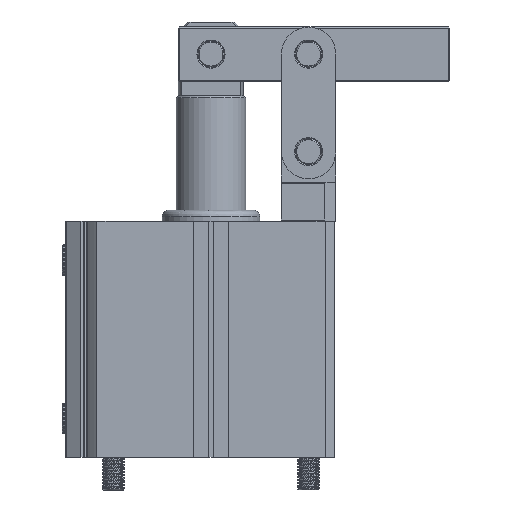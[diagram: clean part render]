
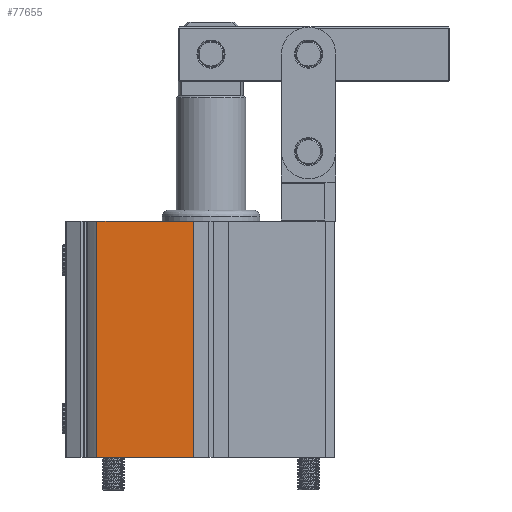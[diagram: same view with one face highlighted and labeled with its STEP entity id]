
A CAD part, front view. The second image highlights one B-rep face of the part: STEP entity #77655.
In plain terms, the highlighted planar face has unit normal (0, -1, 0).
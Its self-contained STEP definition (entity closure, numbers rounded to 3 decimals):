
#70107 = PLANE('',#70108);
#70108 = AXIS2_PLACEMENT_3D('',#70109,#70110,#70111);
#70109 = CARTESIAN_POINT('',(-59.57,15.628,59.5));
#70110 = DIRECTION('',(0.,0.,1.));
#70111 = DIRECTION('',(1.,0.,-0.));
#72508 = PLANE('',#72509);
#72509 = AXIS2_PLACEMENT_3D('',#72510,#72511,#72512);
#72510 = CARTESIAN_POINT('',(-106.07,5.589,-49.5));
#72511 = DIRECTION('',(0.,0.,1.));
#72512 = DIRECTION('',(1.,0.,-0.));
#74566 = PLANE('',#74567);
#74567 = AXIS2_PLACEMENT_3D('',#74568,#74569,#74570);
#74568 = CARTESIAN_POINT('',(-48.32,-60.872,49.5));
#74569 = DIRECTION('',(-1.,0.,0.));
#74570 = DIRECTION('',(0.,0.,1.));
#75856 = VERTEX_POINT('',#75857);
#75857 = CARTESIAN_POINT('',(-48.32,-60.872,59.5));
#75878 = EDGE_CURVE('',#75856,#75879,#75881,.T.);
#75879 = VERTEX_POINT('',#75880);
#75880 = CARTESIAN_POINT('',(-48.32,-60.872,-49.5));
#75881 = SURFACE_CURVE('',#75882,(#75886,#75893),.PCURVE_S1.);
#75882 = LINE('',#75883,#75884);
#75883 = CARTESIAN_POINT('',(-48.32,-60.872,49.5));
#75884 = VECTOR('',#75885,1.);
#75885 = DIRECTION('',(-0.,-0.,-1.));
#75886 = PCURVE('',#74566,#75887);
#75887 = DEFINITIONAL_REPRESENTATION('',(#75888),#75892);
#75888 = LINE('',#75889,#75890);
#75889 = CARTESIAN_POINT('',(0.,0.));
#75890 = VECTOR('',#75891,1.);
#75891 = DIRECTION('',(-1.,0.));
#75892 = ( GEOMETRIC_REPRESENTATION_CONTEXT(2) 
PARAMETRIC_REPRESENTATION_CONTEXT() REPRESENTATION_CONTEXT('2D SPACE',''
  ) );
#75893 = PCURVE('',#75894,#75899);
#75894 = PLANE('',#75895);
#75895 = AXIS2_PLACEMENT_3D('',#75896,#75897,#75898);
#75896 = CARTESIAN_POINT('',(-48.32,-60.872,49.5));
#75897 = DIRECTION('',(0.,1.,-0.));
#75898 = DIRECTION('',(0.,0.,1.));
#75899 = DEFINITIONAL_REPRESENTATION('',(#75900),#75904);
#75900 = LINE('',#75901,#75902);
#75901 = CARTESIAN_POINT('',(0.,0.));
#75902 = VECTOR('',#75903,1.);
#75903 = DIRECTION('',(-1.,0.));
#75904 = ( GEOMETRIC_REPRESENTATION_CONTEXT(2) 
PARAMETRIC_REPRESENTATION_CONTEXT() REPRESENTATION_CONTEXT('2D SPACE',''
  ) );
#77528 = CYLINDRICAL_SURFACE('',#77529,50.);
#77529 = AXIS2_PLACEMENT_3D('',#77530,#77531,#77532);
#77530 = CARTESIAN_POINT('',(-59.57,-23.372,49.5));
#77531 = DIRECTION('',(-0.,-0.,-1.));
#77532 = DIRECTION('',(-1.,0.,0.));
#77586 = EDGE_CURVE('',#77587,#77589,#77591,.T.);
#77587 = VERTEX_POINT('',#77588);
#77588 = CARTESIAN_POINT('',(-92.641,-60.872,-49.5));
#77589 = VERTEX_POINT('',#77590);
#77590 = CARTESIAN_POINT('',(-92.641,-60.872,59.5));
#77591 = SURFACE_CURVE('',#77592,(#77596,#77603),.PCURVE_S1.);
#77592 = LINE('',#77593,#77594);
#77593 = CARTESIAN_POINT('',(-92.641,-60.872,49.5));
#77594 = VECTOR('',#77595,1.);
#77595 = DIRECTION('',(0.,0.,1.));
#77596 = PCURVE('',#77528,#77597);
#77597 = DEFINITIONAL_REPRESENTATION('',(#77598),#77602);
#77598 = LINE('',#77599,#77600);
#77599 = CARTESIAN_POINT('',(5.435,0.));
#77600 = VECTOR('',#77601,1.);
#77601 = DIRECTION('',(0.,-1.));
#77602 = ( GEOMETRIC_REPRESENTATION_CONTEXT(2) 
PARAMETRIC_REPRESENTATION_CONTEXT() REPRESENTATION_CONTEXT('2D SPACE',''
  ) );
#77603 = PCURVE('',#75894,#77604);
#77604 = DEFINITIONAL_REPRESENTATION('',(#77605),#77609);
#77605 = LINE('',#77606,#77607);
#77606 = CARTESIAN_POINT('',(0.,-44.322));
#77607 = VECTOR('',#77608,1.);
#77608 = DIRECTION('',(1.,0.));
#77609 = ( GEOMETRIC_REPRESENTATION_CONTEXT(2) 
PARAMETRIC_REPRESENTATION_CONTEXT() REPRESENTATION_CONTEXT('2D SPACE',''
  ) );
#77655 = ADVANCED_FACE('',(#77656),#75894,.F.);
#77656 = FACE_BOUND('',#77657,.T.);
#77657 = EDGE_LOOP('',(#77658,#77659,#77680,#77681));
#77658 = ORIENTED_EDGE('',*,*,#75878,.F.);
#77659 = ORIENTED_EDGE('',*,*,#77660,.F.);
#77660 = EDGE_CURVE('',#77589,#75856,#77661,.T.);
#77661 = SURFACE_CURVE('',#77662,(#77666,#77673),.PCURVE_S1.);
#77662 = LINE('',#77663,#77664);
#77663 = CARTESIAN_POINT('',(-92.641,-60.872,59.5));
#77664 = VECTOR('',#77665,1.);
#77665 = DIRECTION('',(1.,0.,0.));
#77666 = PCURVE('',#75894,#77667);
#77667 = DEFINITIONAL_REPRESENTATION('',(#77668),#77672);
#77668 = LINE('',#77669,#77670);
#77669 = CARTESIAN_POINT('',(10.,-44.322));
#77670 = VECTOR('',#77671,1.);
#77671 = DIRECTION('',(0.,1.));
#77672 = ( GEOMETRIC_REPRESENTATION_CONTEXT(2) 
PARAMETRIC_REPRESENTATION_CONTEXT() REPRESENTATION_CONTEXT('2D SPACE',''
  ) );
#77673 = PCURVE('',#70107,#77674);
#77674 = DEFINITIONAL_REPRESENTATION('',(#77675),#77679);
#77675 = LINE('',#77676,#77677);
#77676 = CARTESIAN_POINT('',(-33.072,-76.5));
#77677 = VECTOR('',#77678,1.);
#77678 = DIRECTION('',(1.,0.));
#77679 = ( GEOMETRIC_REPRESENTATION_CONTEXT(2) 
PARAMETRIC_REPRESENTATION_CONTEXT() REPRESENTATION_CONTEXT('2D SPACE',''
  ) );
#77680 = ORIENTED_EDGE('',*,*,#77586,.F.);
#77681 = ORIENTED_EDGE('',*,*,#77682,.T.);
#77682 = EDGE_CURVE('',#77587,#75879,#77683,.T.);
#77683 = SURFACE_CURVE('',#77684,(#77688,#77695),.PCURVE_S1.);
#77684 = LINE('',#77685,#77686);
#77685 = CARTESIAN_POINT('',(-106.07,-60.872,-49.5));
#77686 = VECTOR('',#77687,1.);
#77687 = DIRECTION('',(1.,0.,-0.));
#77688 = PCURVE('',#75894,#77689);
#77689 = DEFINITIONAL_REPRESENTATION('',(#77690),#77694);
#77690 = LINE('',#77691,#77692);
#77691 = CARTESIAN_POINT('',(-99.,-57.75));
#77692 = VECTOR('',#77693,1.);
#77693 = DIRECTION('',(0.,1.));
#77694 = ( GEOMETRIC_REPRESENTATION_CONTEXT(2) 
PARAMETRIC_REPRESENTATION_CONTEXT() REPRESENTATION_CONTEXT('2D SPACE',''
  ) );
#77695 = PCURVE('',#72508,#77696);
#77696 = DEFINITIONAL_REPRESENTATION('',(#77697),#77701);
#77697 = LINE('',#77698,#77699);
#77698 = CARTESIAN_POINT('',(0.,-66.461));
#77699 = VECTOR('',#77700,1.);
#77700 = DIRECTION('',(1.,0.));
#77701 = ( GEOMETRIC_REPRESENTATION_CONTEXT(2) 
PARAMETRIC_REPRESENTATION_CONTEXT() REPRESENTATION_CONTEXT('2D SPACE',''
  ) );
